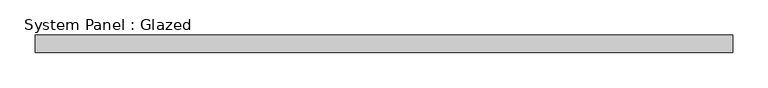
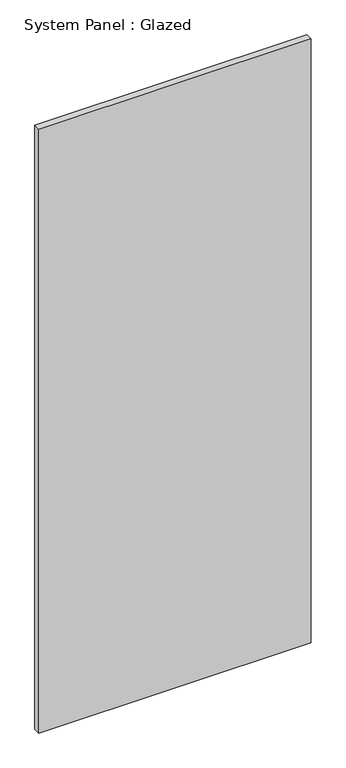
"""IFC4 building model written with IfcOpenShell, lengths in millimetres: plate geometry, System Panel : Glazed."""

from ifc_helpers import new_model, si_unit, origin, origin_with_axes, place, context, project, spatial, polyline, outline, extrude, source, transform, mapped, element, save


def system_panel_glazed_8dd02efa(model_context):
    return source(origin(), model_context, "Body", "SweptSolid", [
        extrude(outline(polyline([(495.8333333, 24.5), (-495.8333333, 24.5), (-495.8333333, 49.5), (495.8333333, 49.5), (495.8333333, 24.5)])), origin_with_axes(), (0.0, 0.0, 1.0), 2325.0),
    ])


if __name__ == "__main__":
    model = new_model("IFC4")
    model_context = context("Model", 3, world=origin())
    ifc_project = project(units=[si_unit("LENGTHUNIT", "METRE", prefix="MILLI")], contexts=[model_context])
    site = spatial("IfcSite", under=ifc_project)
    building = spatial("IfcBuilding", under=site)
    placement = place(None, origin())
    system_panel_glazed_shape = system_panel_glazed_8dd02efa(model_context)
    element("IfcPlate", 1, ObjectType="System Panel : Glazed", at=placement, inside=building, context=model_context, shape_type="MappedRepresentation", body=[
        mapped(system_panel_glazed_shape, transform((0.0, 0.0, 0.0), x_axis=(1.0, 0.0, 0.0), y_axis=(0.0, 1.0, 0.0), z_axis=(0.0, 0.0, 1.0))),
    ])
    save(model, "model.ifc")
